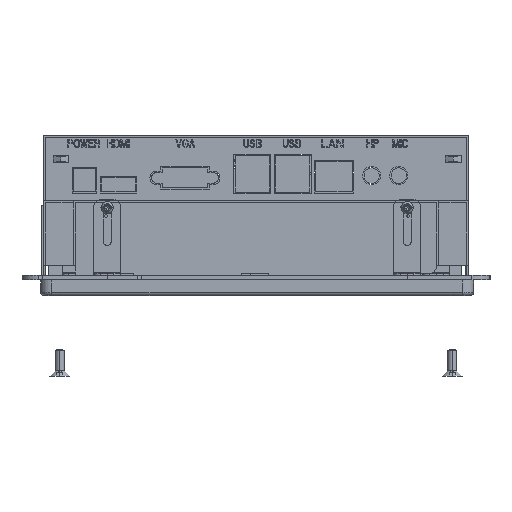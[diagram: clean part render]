
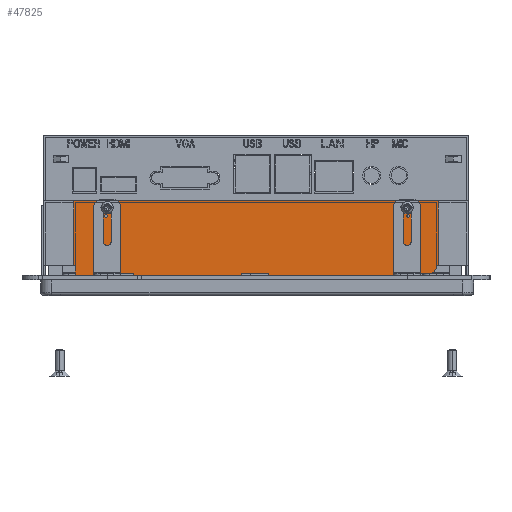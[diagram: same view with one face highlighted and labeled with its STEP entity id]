
A CAD part, left-side view. The second image highlights one B-rep face of the part: STEP entity #47825.
In plain terms, the highlighted planar face has unit normal (-1, 0, 0) as drawn and (0, 1, 0) by its records, which use the part's own axes.
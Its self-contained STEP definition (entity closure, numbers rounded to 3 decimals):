
#4483=CARTESIAN_POINT('',(28.75,147.65,77.05));
#4484=DIRECTION('',(0.,-1.,0.));
#4485=DIRECTION('',(1.,0.,0.));
#4486=AXIS2_PLACEMENT_3D('',#4483,#4484,#4485);
#4488=DIRECTION('',(-1.,0.,0.));
#4489=VECTOR('',#4488,3.5);
#4490=CARTESIAN_POINT('',(28.75,147.65,80.05));
#4491=LINE('',#4490,#4489);
#4492=DIRECTION('',(0.,0.,1.));
#4493=VECTOR('',#4492,0.8);
#4494=CARTESIAN_POINT('',(25.25,147.65,80.05));
#4495=LINE('',#4494,#4493);
#4496=DIRECTION('',(1.,0.,0.));
#4497=VECTOR('',#4496,28.5);
#4498=CARTESIAN_POINT('',(-3.25,147.65,-80.85));
#4499=LINE('',#4498,#4497);
#4500=DIRECTION('',(0.,0.,1.));
#4501=VECTOR('',#4500,0.8);
#4502=CARTESIAN_POINT('',(25.25,147.65,-80.85));
#4503=LINE('',#4502,#4501);
#4504=CARTESIAN_POINT('',(25.75,147.65,-77.05));
#4505=DIRECTION('',(0.,-1.,0.));
#4506=DIRECTION('',(0.,0.,-1.));
#4507=AXIS2_PLACEMENT_3D('',#4504,#4505,#4506);
#4509=DIRECTION('',(0.,0.,1.));
#4510=VECTOR('',#4509,11.55);
#4511=CARTESIAN_POINT('',(28.75,147.65,-77.05));
#4512=LINE('',#4511,#4510);
#4513=DIRECTION('',(0.,0.,1.));
#4514=VECTOR('',#4513,60.);
#4515=CARTESIAN_POINT('',(31.75,147.65,-65.5));
#4516=LINE('',#4515,#4514);
#4517=DIRECTION('',(-1.,0.,0.));
#4518=VECTOR('',#4517,3.);
#4519=CARTESIAN_POINT('',(31.75,147.65,-5.5));
#4520=LINE('',#4519,#4518);
#4521=DIRECTION('',(0.,0.,1.));
#4522=VECTOR('',#4521,12.);
#4523=CARTESIAN_POINT('',(28.75,147.65,-5.5));
#4524=LINE('',#4523,#4522);
#4525=DIRECTION('',(0.,0.,1.));
#4526=VECTOR('',#4525,48.);
#4527=CARTESIAN_POINT('',(31.75,147.65,6.5));
#4528=LINE('',#4527,#4526);
#4529=DIRECTION('',(-1.,0.,0.));
#4530=VECTOR('',#4529,3.);
#4531=CARTESIAN_POINT('',(31.75,147.65,54.5));
#4532=LINE('',#4531,#4530);
#4533=DIRECTION('',(0.,0.,1.));
#4534=VECTOR('',#4533,12.);
#4535=CARTESIAN_POINT('',(28.75,147.65,54.5));
#4536=LINE('',#4535,#4534);
#4537=DIRECTION('',(0.,0.,1.));
#4538=VECTOR('',#4537,10.55);
#4539=CARTESIAN_POINT('',(31.75,147.65,66.5));
#4540=LINE('',#4539,#4538);
#4541=CARTESIAN_POINT('',(3.35,147.65,66.5));
#4542=DIRECTION('',(0.,1.,0.));
#4543=DIRECTION('',(1.,0.,0.));
#4544=AXIS2_PLACEMENT_3D('',#4541,#4542,#4543);
#4546=CARTESIAN_POINT('',(3.35,147.65,66.5));
#4547=DIRECTION('',(0.,1.,0.));
#4548=DIRECTION('',(-1.,0.,0.));
#4549=AXIS2_PLACEMENT_3D('',#4546,#4547,#4548);
#4551=CARTESIAN_POINT('',(3.35,147.65,-67.5));
#4552=DIRECTION('',(0.,1.,0.));
#4553=DIRECTION('',(1.,0.,0.));
#4554=AXIS2_PLACEMENT_3D('',#4551,#4552,#4553);
#4556=CARTESIAN_POINT('',(3.35,147.65,-67.5));
#4557=DIRECTION('',(0.,1.,0.));
#4558=DIRECTION('',(-1.,0.,0.));
#4559=AXIS2_PLACEMENT_3D('',#4556,#4557,#4558);
#4573=DIRECTION('',(1.,0.,0.));
#4574=VECTOR('',#4573,28.5);
#4575=CARTESIAN_POINT('',(-3.25,147.65,80.85));
#4576=LINE('',#4575,#4574);
#4585=DIRECTION('',(0.,0.,1.));
#4586=VECTOR('',#4585,161.7);
#4587=CARTESIAN_POINT('',(-3.25,147.65,-80.85));
#4588=LINE('',#4587,#4586);
#19629=DIRECTION('',(-1.,0.,0.));
#19630=VECTOR('',#19629,0.5);
#19631=CARTESIAN_POINT('',(25.75,147.65,-80.05));
#19632=LINE('',#19631,#19630);
#19649=DIRECTION('',(-1.,0.,0.));
#19650=VECTOR('',#19649,3.);
#19651=CARTESIAN_POINT('',(31.75,147.65,-65.5));
#19652=LINE('',#19651,#19650);
#19681=DIRECTION('',(-1.,0.,0.));
#19682=VECTOR('',#19681,3.);
#19683=CARTESIAN_POINT('',(31.75,147.65,6.5));
#19684=LINE('',#19683,#19682);
#19713=DIRECTION('',(-1.,0.,0.));
#19714=VECTOR('',#19713,3.);
#19715=CARTESIAN_POINT('',(31.75,147.65,66.5));
#19716=LINE('',#19715,#19714);
#36336=CARTESIAN_POINT('',(25.25,147.65,80.85));
#36337=VERTEX_POINT('',#36336);
#36338=CARTESIAN_POINT('',(25.25,147.65,80.05));
#36339=VERTEX_POINT('',#36338);
#36384=CARTESIAN_POINT('',(31.75,147.65,77.05));
#36385=CARTESIAN_POINT('',(28.75,147.65,80.05));
#36386=VERTEX_POINT('',#36384);
#36387=VERTEX_POINT('',#36385);
#36388=CARTESIAN_POINT('',(-3.25,147.65,80.85));
#36389=VERTEX_POINT('',#36388);
#36390=CARTESIAN_POINT('',(-3.25,147.65,-80.85));
#36391=VERTEX_POINT('',#36390);
#36392=CARTESIAN_POINT('',(25.25,147.65,-80.85));
#36393=VERTEX_POINT('',#36392);
#36394=CARTESIAN_POINT('',(25.25,147.65,-80.05));
#36395=VERTEX_POINT('',#36394);
#36396=CARTESIAN_POINT('',(25.75,147.65,-80.05));
#36397=VERTEX_POINT('',#36396);
#36398=CARTESIAN_POINT('',(28.75,147.65,-77.05));
#36399=VERTEX_POINT('',#36398);
#36400=CARTESIAN_POINT('',(28.75,147.65,-65.5));
#36401=VERTEX_POINT('',#36400);
#36402=CARTESIAN_POINT('',(31.75,147.65,-65.5));
#36403=VERTEX_POINT('',#36402);
#36404=CARTESIAN_POINT('',(31.75,147.65,-5.5));
#36405=VERTEX_POINT('',#36404);
#36406=CARTESIAN_POINT('',(28.75,147.65,-5.5));
#36407=VERTEX_POINT('',#36406);
#36408=CARTESIAN_POINT('',(28.75,147.65,6.5));
#36409=VERTEX_POINT('',#36408);
#36410=CARTESIAN_POINT('',(31.75,147.65,6.5));
#36411=VERTEX_POINT('',#36410);
#36412=CARTESIAN_POINT('',(31.75,147.65,54.5));
#36413=VERTEX_POINT('',#36412);
#36414=CARTESIAN_POINT('',(28.75,147.65,54.5));
#36415=VERTEX_POINT('',#36414);
#36416=CARTESIAN_POINT('',(28.75,147.65,66.5));
#36417=VERTEX_POINT('',#36416);
#36418=CARTESIAN_POINT('',(31.75,147.65,66.5));
#36419=VERTEX_POINT('',#36418);
#36420=CARTESIAN_POINT('',(3.95,147.65,66.5));
#36421=CARTESIAN_POINT('',(2.75,147.65,66.5));
#36422=VERTEX_POINT('',#36420);
#36423=VERTEX_POINT('',#36421);
#36424=CARTESIAN_POINT('',(3.95,147.65,-67.5));
#36425=CARTESIAN_POINT('',(2.75,147.65,-67.5));
#36426=VERTEX_POINT('',#36424);
#36427=VERTEX_POINT('',#36425);
#47768=CARTESIAN_POINT('',(-32.25,147.65,-94.15));
#47769=DIRECTION('',(0.,1.,0.));
#47770=DIRECTION('',(0.,0.,1.));
#47771=AXIS2_PLACEMENT_3D('',#47768,#47769,#47770);
#47772=PLANE('',#47771);
#47773=ORIENTED_EDGE('',*,*,#47758,.T.);
#47775=ORIENTED_EDGE('',*,*,#47774,.T.);
#47776=ORIENTED_EDGE('',*,*,#47676,.T.);
#47778=ORIENTED_EDGE('',*,*,#47777,.F.);
#47780=ORIENTED_EDGE('',*,*,#47779,.F.);
#47782=ORIENTED_EDGE('',*,*,#47781,.T.);
#47784=ORIENTED_EDGE('',*,*,#47783,.T.);
#47786=ORIENTED_EDGE('',*,*,#47785,.F.);
#47788=ORIENTED_EDGE('',*,*,#47787,.T.);
#47790=ORIENTED_EDGE('',*,*,#47789,.T.);
#47792=ORIENTED_EDGE('',*,*,#47791,.F.);
#47794=ORIENTED_EDGE('',*,*,#47793,.T.);
#47796=ORIENTED_EDGE('',*,*,#47795,.T.);
#47798=ORIENTED_EDGE('',*,*,#47797,.T.);
#47800=ORIENTED_EDGE('',*,*,#47799,.F.);
#47802=ORIENTED_EDGE('',*,*,#47801,.T.);
#47804=ORIENTED_EDGE('',*,*,#47803,.T.);
#47806=ORIENTED_EDGE('',*,*,#47805,.T.);
#47808=ORIENTED_EDGE('',*,*,#47807,.F.);
#47810=ORIENTED_EDGE('',*,*,#47809,.T.);
#47811=EDGE_LOOP('',(#47773,#47775,#47776,#47778,#47780,#47782,#47784,#47786,
#47788,#47790,#47792,#47794,#47796,#47798,#47800,#47802,#47804,#47806,#47808,
#47810));
#47812=FACE_OUTER_BOUND('',#47811,.F.);
#47814=ORIENTED_EDGE('',*,*,#47813,.T.);
#47816=ORIENTED_EDGE('',*,*,#47815,.T.);
#47817=EDGE_LOOP('',(#47814,#47816));
#47818=FACE_BOUND('',#47817,.F.);
#47820=ORIENTED_EDGE('',*,*,#47819,.T.);
#47822=ORIENTED_EDGE('',*,*,#47821,.T.);
#47823=EDGE_LOOP('',(#47820,#47822));
#47824=FACE_BOUND('',#47823,.F.);
#47825=ADVANCED_FACE('',(#47812,#47818,#47824),#47772,.T.);
#4487=CIRCLE('',#4486,3.);
#4508=CIRCLE('',#4507,3.);
#4545=CIRCLE('',#4544,0.6);
#4550=CIRCLE('',#4549,0.6);
#4555=CIRCLE('',#4554,0.6);
#4560=CIRCLE('',#4559,0.6);
#47676=EDGE_CURVE('',#36339,#36337,#4495,.T.);
#47758=EDGE_CURVE('',#36386,#36387,#4487,.T.);
#47774=EDGE_CURVE('',#36387,#36339,#4491,.T.);
#47777=EDGE_CURVE('',#36389,#36337,#4576,.T.);
#47779=EDGE_CURVE('',#36391,#36389,#4588,.T.);
#47781=EDGE_CURVE('',#36391,#36393,#4499,.T.);
#47783=EDGE_CURVE('',#36393,#36395,#4503,.T.);
#47785=EDGE_CURVE('',#36397,#36395,#19632,.T.);
#47787=EDGE_CURVE('',#36397,#36399,#4508,.T.);
#47789=EDGE_CURVE('',#36399,#36401,#4512,.T.);
#47791=EDGE_CURVE('',#36403,#36401,#19652,.T.);
#47793=EDGE_CURVE('',#36403,#36405,#4516,.T.);
#47795=EDGE_CURVE('',#36405,#36407,#4520,.T.);
#47797=EDGE_CURVE('',#36407,#36409,#4524,.T.);
#47799=EDGE_CURVE('',#36411,#36409,#19684,.T.);
#47801=EDGE_CURVE('',#36411,#36413,#4528,.T.);
#47803=EDGE_CURVE('',#36413,#36415,#4532,.T.);
#47805=EDGE_CURVE('',#36415,#36417,#4536,.T.);
#47807=EDGE_CURVE('',#36419,#36417,#19716,.T.);
#47809=EDGE_CURVE('',#36419,#36386,#4540,.T.);
#47813=EDGE_CURVE('',#36422,#36423,#4545,.T.);
#47815=EDGE_CURVE('',#36423,#36422,#4550,.T.);
#47819=EDGE_CURVE('',#36426,#36427,#4555,.T.);
#47821=EDGE_CURVE('',#36427,#36426,#4560,.T.);
